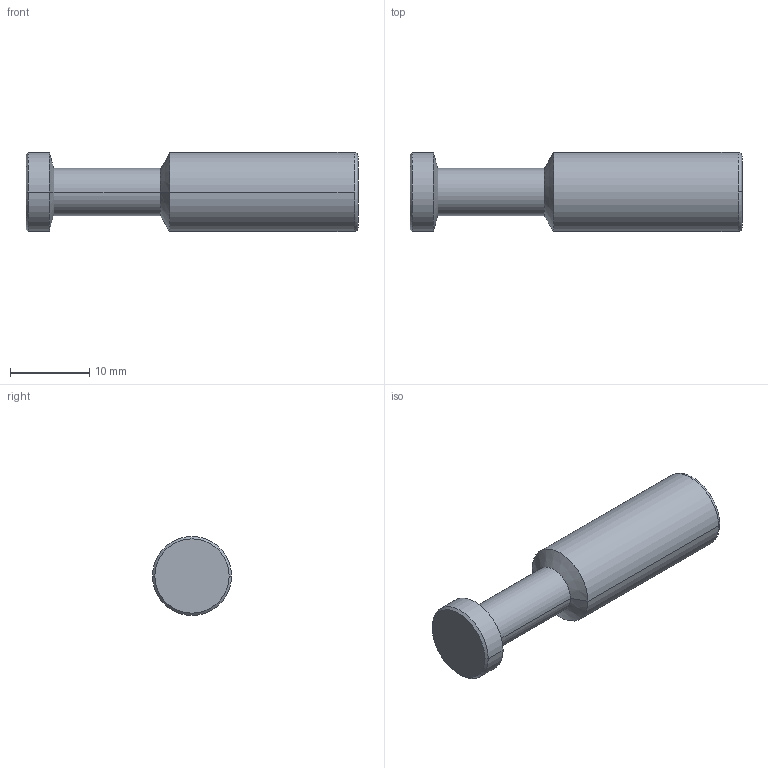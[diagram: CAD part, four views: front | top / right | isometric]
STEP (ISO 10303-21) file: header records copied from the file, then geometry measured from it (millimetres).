
FILE_DESCRIPTION (( 'STEP AP203' ), '1' );
FILE_NAME ('FP10-00.STEP', '2020-05-13T10:49:41', ( '' ), ( '' ), 'SwSTEP 2.0', 'SolidWorks 2019', '' );
FILE_SCHEMA (( 'CONFIG_CONTROL_DESIGN' ));
Length unit declared in the file: millimetre
Products named in the file (1): FP10-00
Bounding box: 42 x 10 x 10 mm (x, y, z)
Volume: 2571 mm3; surface area: 1351.4 mm2
Topology: 1 solids, 1 shells, 16 faces, 32 edges, 18 vertices
Faces by surface type: cylinder 6, cone 6, torus 2, plane 2
Entity records: 493 total; most frequent: DIRECTION 86, CARTESIAN_POINT 67, ORIENTED_EDGE 64, AXIS2_PLACEMENT_3D 37, EDGE_CURVE 32, CIRCLE 20, VERTEX_POINT 18, FACE_OUTER_BOUND 16
